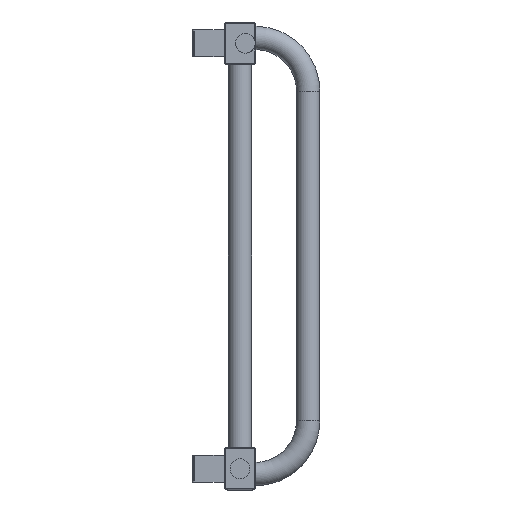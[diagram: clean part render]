
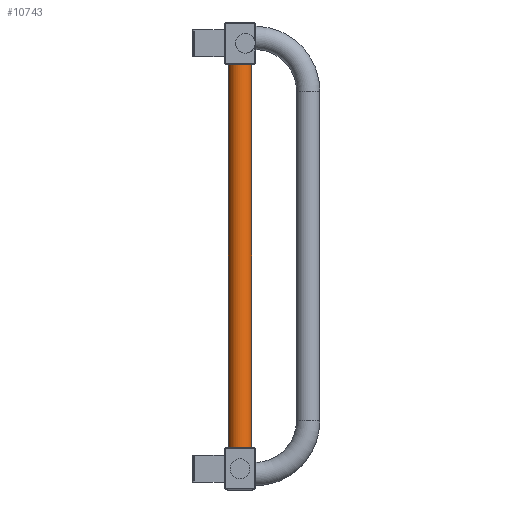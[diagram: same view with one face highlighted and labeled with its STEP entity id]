
A CAD part, left-side view. The second image highlights one B-rep face of the part: STEP entity #10743.
In plain terms, the highlighted cylindrical face has radius 11 mm (diameter 22 mm), a full revolution.
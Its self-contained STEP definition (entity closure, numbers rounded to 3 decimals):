
#10716=CARTESIAN_POINT('',(30.,0.,400.));
#10717=DIRECTION('',(0.,0.,-1.0));
#10718=DIRECTION('',(0.865,-0.502,0.));
#10719=AXIS2_PLACEMENT_3D('',#10716,#10717,#10718);
#10720=CYLINDRICAL_SURFACE('',#10719,11.);
#10721=CARTESIAN_POINT('',(20.488,5.524,40.));
#10722=VERTEX_POINT('',#10721);
#10723=CARTESIAN_POINT('',(30.,0.,40.0));
#10724=DIRECTION('',(0.,0.,-1.0));
#10725=DIRECTION('',(0.865,-0.502,0.));
#10726=AXIS2_PLACEMENT_3D('',#10723,#10724,#10725);
#10727=CIRCLE('',#10726,11.);
#10728=EDGE_CURVE('',#10722,#10722,#10727,.T.);
#10729=ORIENTED_EDGE('',*,*,#10728,.F.);
#10730=EDGE_LOOP('',(#10729));
#10731=FACE_OUTER_BOUND('',#10730,.T.);
#10732=CARTESIAN_POINT('',(20.488,5.524,400.));
#10733=VERTEX_POINT('',#10732);
#10734=CARTESIAN_POINT('',(30.,0.,400.));
#10735=DIRECTION('',(0.,0.,1.0));
#10736=DIRECTION('',(0.865,-0.502,0.));
#10737=AXIS2_PLACEMENT_3D('',#10734,#10735,#10736);
#10738=CIRCLE('',#10737,11.);
#10739=EDGE_CURVE('',#10733,#10733,#10738,.T.);
#10740=ORIENTED_EDGE('',*,*,#10739,.F.);
#10741=EDGE_LOOP('',(#10740));
#10742=FACE_BOUND('',#10741,.T.);
#10743=ADVANCED_FACE('',(#10731,#10742),#10720,.T.);
